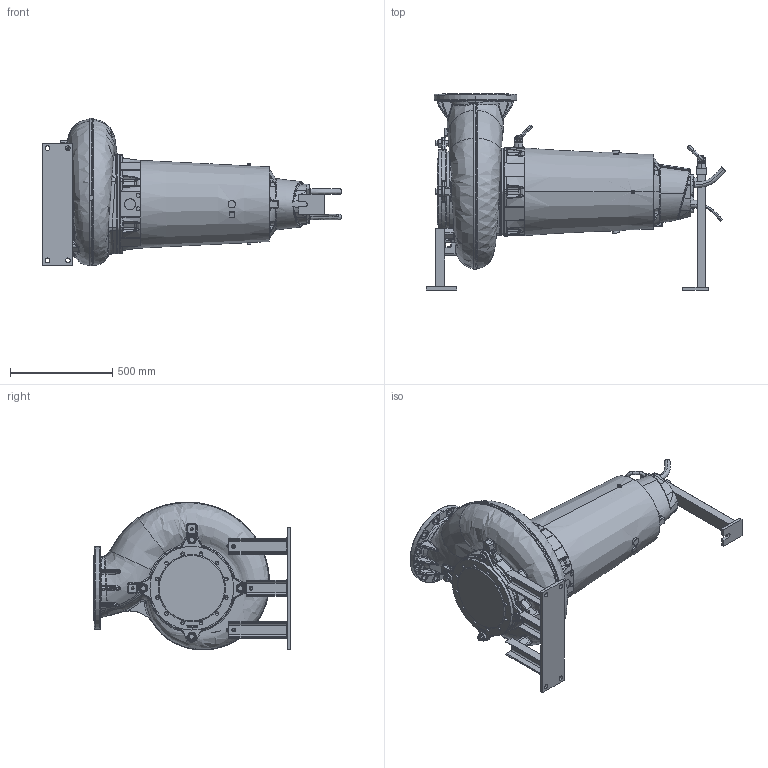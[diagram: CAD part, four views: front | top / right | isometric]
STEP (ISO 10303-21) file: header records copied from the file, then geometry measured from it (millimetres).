
FILE_DESCRIPTION (( 'STEP AP214' ), '1' );
FILE_NAME ('PE4_XFP255J-CB2_DRY HA_A_NG2.STEP', '2017-01-18T08:35:02', ( '' ), ( '' ), 'SwSTEP 2.0', 'SolidWorks 2017', '' );
FILE_SCHEMA (( 'AUTOMOTIVE_DESIGN' ));
Length unit declared in the file: millimetre
Products named in the file (1): PE4_XFP255J-CB2_DRY HA_A_NG2
Bounding box: 1466.58 x 962.06 x 724.85 mm (x, y, z)
Volume: 213622382 mm3; surface area: 3645710.3 mm2
Topology: 5 solids, 18 shells, 2586 faces, 6543 edges, 3967 vertices
Faces by surface type: bspline 726, plane 691, cylinder 632, cone 308, torus 190, sphere 39
Entity records: 174867 total; most frequent: CARTESIAN_POINT 90637, ORIENTED_EDGE 12902, DIRECTION 9976, EDGE_CURVE 6451, AXIS2_PLACEMENT_3D 3977, VERTEX_POINT 3963, EDGE_LOOP 2748, UNCERTAINTY_MEASURE_WITH_UNIT 2593
